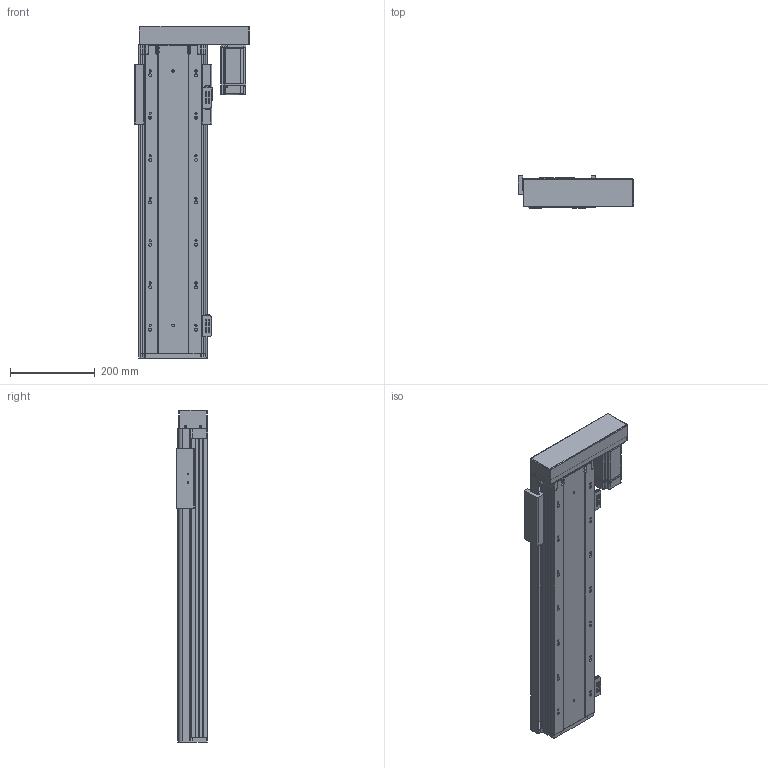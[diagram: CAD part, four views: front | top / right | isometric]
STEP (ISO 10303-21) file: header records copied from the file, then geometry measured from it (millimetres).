
FILE_DESCRIPTION (( 'STEP AP203' ), '1' );
FILE_NAME ('RY140FB-L2010-300-RK.SLDASM_500.step', '2021-02-23T02:40:57', ( '盈信电脑' ), ( '东莞市道滘镇水果街19号' ), 'SwSTEP 2.0', 'SolidWorks 2012', '' );
FILE_SCHEMA (( 'CONFIG_CONTROL_DESIGN' ));
Length unit declared in the file: millimetre
Products named in the file (17): RY140FB-L2010-300-RK.SLDASM_500; RY140FB-酘衵殏萇儂欶; RY140FB-左右折电机安装板; RY140FB-覜茼え; RY140-674嫖萇耀輸; 覜茼ん674; RY140FB-20佪裝臏賑輸; RY140直线电机感应器674光电安装座; RY140FB-300蛌殏奻裔啣-RK_500; 侂狟400W侜督萇儂; RY140FB-转折电机端支撑座(7002); 15; 滅袉蝶18-10; 滅袉蝶18-24; RY140FB-綴裔啣; RY140FB-300蛌殏倰第菁釱-RK_500
Assembly tree (20 placements, depth 3):
  RY140FB-L2010-300-RK.SLDASM_500
    RY140FB-300蛌殏倰第菁釱-RK_500
    RY140FB-綴裔啣
    滅袉蝶18-24  x2
    滅袉蝶18-10
    RY140FB-转折电机端支撑座(7002)
    侂狟400W侜督萇儂
      15
    RY140FB-20佪裝臏賑輸
    RY140FB-300蛌殏奻裔啣-RK_500
    RY140-674嫖萇耀輸
      覜茼ん674
      RY140直线电机感应器674光电安装座
    RY140-674嫖萇耀輸
      覜茼ん674  x2
      RY140直线电机感应器674光电安装座
    RY140FB-覜茼え
    RY140FB-左右折电机安装板
    RY140FB-酘衵殏萇儂欶
Bounding box: 271.3 x 75 x 783.2 mm (x, y, z)
Volume: 3427886.5 mm3; surface area: 1120268.1 mm2
Topology: 17 solids, 17 shells, 1746 faces, 4763 edges, 3033 vertices
Faces by surface type: cylinder 837, plane 723, cone 158, bspline 28
Entity records: 52393 total; most frequent: CARTESIAN_POINT 10461, DIRECTION 8520, ORIENTED_EDGE 8258, EDGE_CURVE 4129, AXIS2_PLACEMENT_3D 3072, VERTEX_POINT 2701, LINE 2376, VECTOR 2376
